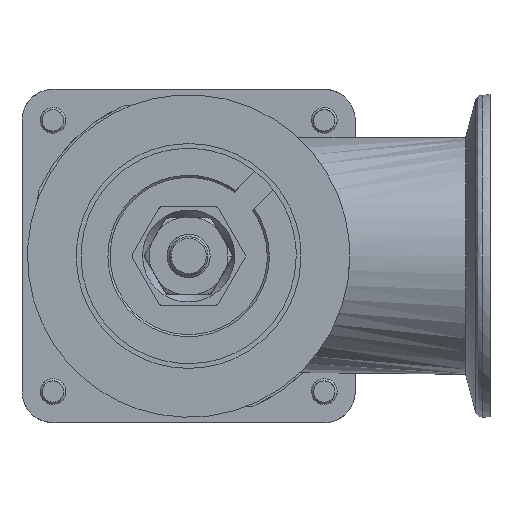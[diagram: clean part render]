
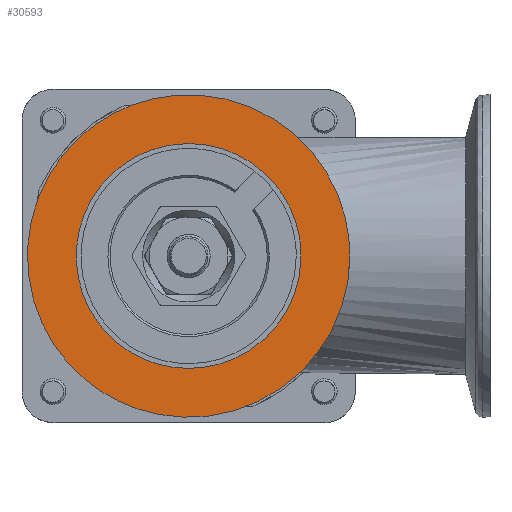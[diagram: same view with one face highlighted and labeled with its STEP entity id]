
A CAD part, front view. The second image highlights one B-rep face of the part: STEP entity #30593.
In plain terms, the highlighted free-form (B-spline) face has degree [1, 1] with [2, 2] control points.
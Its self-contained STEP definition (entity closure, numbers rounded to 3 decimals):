
#30535=CARTESIAN_POINT('V9',(0.,37.452,0.0)
   );
#30536=VERTEX_POINT('V9',#30535);
#30544=CARTESIAN_POINT('E13',(0.,37.452,0.0)
   );
#30545=CARTESIAN_POINT('E13',(0.,37.452,
   64.869));
#30546=CARTESIAN_POINT('E13',(0.,-18.726,
   32.435));
#30547=CARTESIAN_POINT('E13',(0.,-74.905,
   0.));
#30548=CARTESIAN_POINT('E13',(0.,-18.726,
   -32.435));
#30549=CARTESIAN_POINT('E13',(0.,37.452,
   -64.869));
#30550=CARTESIAN_POINT('E13',(0.,37.452,0.0)
   );
#30558=(BOUNDED_CURVE()B_SPLINE_CURVE(2,(#30544,#30545,#30546,
   #30547,#30548,#30549,#30550),.CIRCULAR_ARC.,.T.,.U.)
   B_SPLINE_CURVE_WITH_KNOTS((3,2,2,3),(0.0,70.167,
   140.333,210.5),.UNSPECIFIED.)CURVE()
   GEOMETRIC_REPRESENTATION_ITEM()RATIONAL_B_SPLINE_CURVE((1.0,
   0.5,1.0,0.5,1.0,0.5,1.0)
   )REPRESENTATION_ITEM('E13'));
#30559=EDGE_CURVE('E13',#30536,#30536,#30558,.T.);
#30564=CARTESIAN_POINT('F7',(0.,-41.198,
   41.198));
#30565=CARTESIAN_POINT('F7',(0.,41.198,
   41.198));
#30566=CARTESIAN_POINT('F7',(0.,-41.198,
   -41.198));
#30567=CARTESIAN_POINT('F7',(0.,41.198,
   -41.198));
#30568=QUASI_UNIFORM_SURFACE('F7',1,1,((#30564,#30566),(#30565,
   #30567)),.PLANE_SURF.,.F.,.F.,.U.);
#30569=ORIENTED_EDGE('F8',*,*,#30559,.T.);
#30570=EDGE_LOOP('F7',(#30569));
#30571=FACE_OUTER_BOUND('F7',#30570,.F.);
#30572=CARTESIAN_POINT('V8',(0.,26.1,0.0)
   );
#30573=VERTEX_POINT('V8',#30572);
#30574=CARTESIAN_POINT('E12',(0.,26.1,0.0)
   );
#30575=CARTESIAN_POINT('E12',(0.,26.1,
   45.207));
#30576=CARTESIAN_POINT('E12',(0.,-13.05,
   22.603));
#30577=CARTESIAN_POINT('E12',(0.,-52.2,
   0.));
#30578=CARTESIAN_POINT('E12',(0.,-13.05,
   -22.603));
#30579=CARTESIAN_POINT('E12',(0.,26.1,
   -45.207));
#30580=CARTESIAN_POINT('E12',(0.,26.1,0.0)
   );
#30588=(BOUNDED_CURVE()B_SPLINE_CURVE(2,(#30574,#30575,#30576,
   #30577,#30578,#30579,#30580),.CIRCULAR_ARC.,.T.,.U.)
   B_SPLINE_CURVE_WITH_KNOTS((3,2,2,3),(0.0,0.333,
   0.667,1.0),.UNSPECIFIED.)CURVE()
   GEOMETRIC_REPRESENTATION_ITEM()RATIONAL_B_SPLINE_CURVE((1.0,
   0.5,1.0,0.5,1.0,0.5,1.0)
   )REPRESENTATION_ITEM('E12'));
#30589=EDGE_CURVE('E12',#30573,#30573,#30588,.T.);
#30590=ORIENTED_EDGE('E12',*,*,#30589,.F.);
#30591=EDGE_LOOP('F7',(#30590));
#30592=FACE_BOUND('F7',#30591,.F.);
#30593=ADVANCED_FACE('F7',(#30571,#30592),#30568,.T.);
